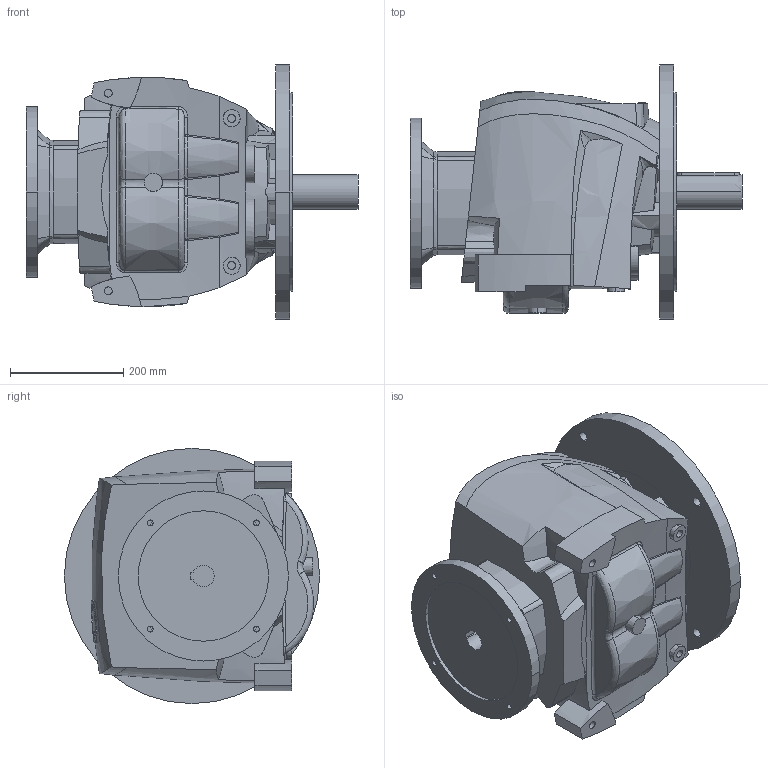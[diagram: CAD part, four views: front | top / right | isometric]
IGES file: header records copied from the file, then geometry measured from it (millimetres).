
Start section:  PTC IGES file: r60_450_pam132.igs
Global section: file name: r60_450_pam132.igs; native system: Pro/ENGINEER by Parametric Technology Corporation; preprocessor: 2008230; author: Luca; organization: Unknown; date: 20131223.133351; units: millimetre
Bounding box: 585.5 x 450 x 450 mm (x, y, z)
Volume: 43344990.6 mm3; surface area: 1201666.3 mm2
Topology: 1 solids, 8 shells, 471 faces, 1250 edges, 824 vertices
Faces by surface type: bspline 271, revolution 199, extrusion 1
